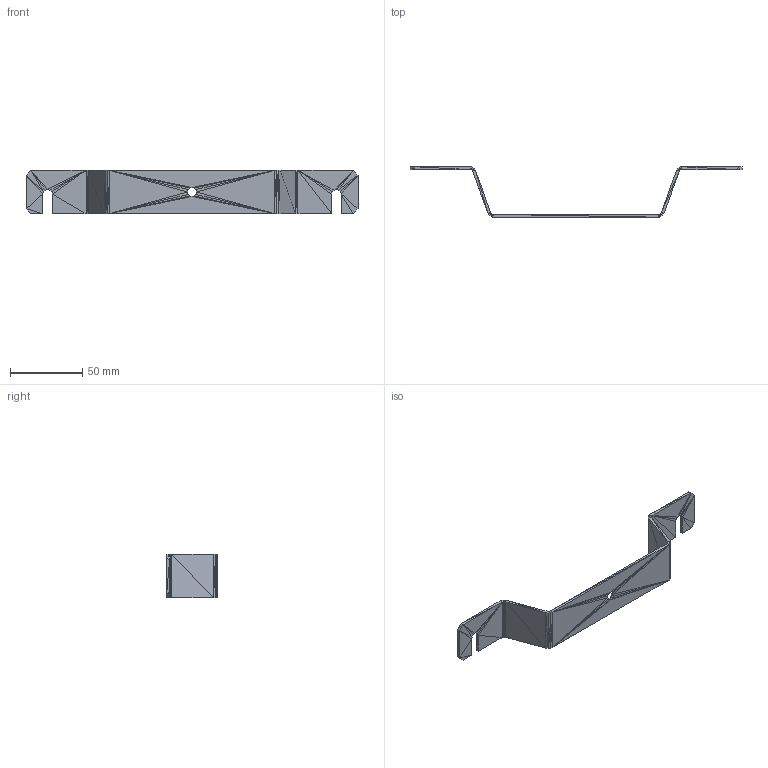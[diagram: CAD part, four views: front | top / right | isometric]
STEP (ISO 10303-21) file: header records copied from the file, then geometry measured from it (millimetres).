
FILE_DESCRIPTION((''),'2;1');
FILE_NAME('003583', '2025-08-08T06:17:33', (''), (''), 'ImageToStl.com STEP Converter','', '');
FILE_SCHEMA(('AUTOMOTIVE_DESIGN_CC2'));
Length unit declared in the file: metre
Products named in the file (1): product0
Bounding box: 230 x 35 x 30 mm (x, y, z)
Surface area: 17278.2 mm2 (no closed solid volume)
Topology: 0 solids, 280 shells, 280 faces, 840 edges, 160 vertices
Faces by surface type: plane 280
Entity records: 6508 total; most frequent: DIRECTION 1402, ORIENTED_EDGE 840, EDGE_CURVE 840, LINE 840, VECTOR 840, AXIS2_PLACEMENT_3D 281, FACE_SURFACE 280, PLANE 280
